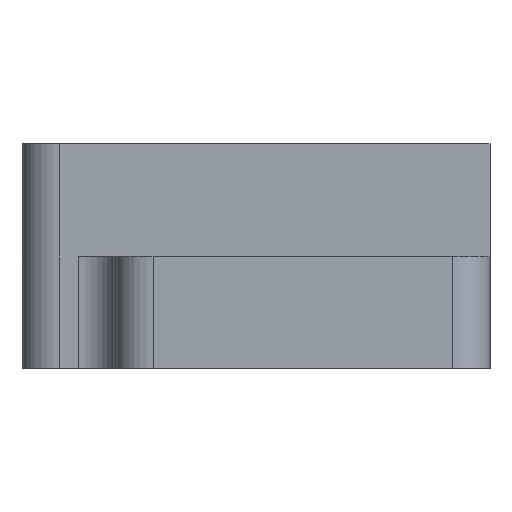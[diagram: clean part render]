
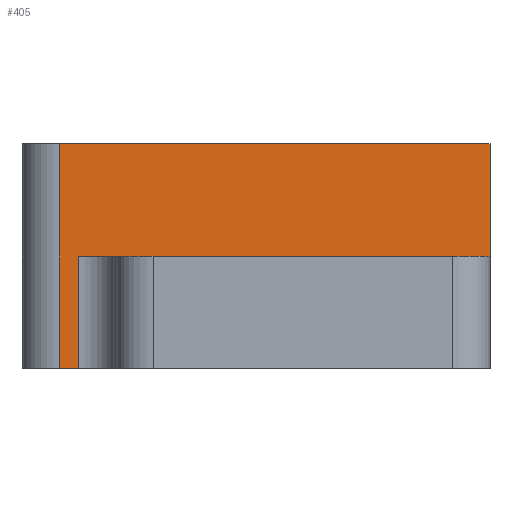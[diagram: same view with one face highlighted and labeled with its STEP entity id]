
A CAD part, front view. The second image highlights one B-rep face of the part: STEP entity #405.
In plain terms, the highlighted planar face has unit normal (0, -1, 0).
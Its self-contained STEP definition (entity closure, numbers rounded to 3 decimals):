
#141 = EDGE_CURVE ( 'NONE', #1511, #2678, #1443, .T. ) ;
#196 = ORIENTED_EDGE ( 'NONE', *, *, #7017, .T. ) ;
#268 = VERTEX_POINT ( 'NONE', #3875 ) ;
#278 = DIRECTION ( 'NONE',  ( 1., 0., 0. ) ) ;
#405 = ADVANCED_FACE ( 'NONE', ( #3541 ), #700, .T. ) ;
#467 = EDGE_CURVE ( 'NONE', #2787, #2678, #2527, .T. ) ;
#551 = CARTESIAN_POINT ( 'NONE',  ( -15., -9., 0. ) ) ;
#585 = AXIS2_PLACEMENT_3D ( 'NONE', #551, #5265, #2420 ) ;
#626 = CARTESIAN_POINT ( 'NONE',  ( 10., -9., 12. ) ) ;
#700 = PLANE ( 'NONE',  #585 ) ;
#817 = EDGE_LOOP ( 'NONE', ( #1383, #3937, #1764, #196, #6252, #2074 ) ) ;
#830 = VECTOR ( 'NONE', #877, 1000. ) ;
#877 = DIRECTION ( 'NONE',  ( 0., 0., 1. ) ) ;
#1327 = CARTESIAN_POINT ( 'NONE',  ( -12., -9., 6. ) ) ;
#1383 = ORIENTED_EDGE ( 'NONE', *, *, #1720, .T. ) ;
#1392 = DIRECTION ( 'NONE',  ( 0., 0., -1. ) ) ;
#1417 = CARTESIAN_POINT ( 'NONE',  ( 10., -9., 0. ) ) ;
#1443 = LINE ( 'NONE', #1937, #830 ) ;
#1511 = VERTEX_POINT ( 'NONE', #5639 ) ;
#1720 = EDGE_CURVE ( 'NONE', #268, #1511, #1965, .T. ) ;
#1764 = ORIENTED_EDGE ( 'NONE', *, *, #467, .F. ) ;
#1891 = CARTESIAN_POINT ( 'NONE',  ( -10., -9., 6. ) ) ;
#1937 = CARTESIAN_POINT ( 'NONE',  ( -12., -9., 0. ) ) ;
#1965 = LINE ( 'NONE', #5373, #3100 ) ;
#2074 = ORIENTED_EDGE ( 'NONE', *, *, #3026, .T. ) ;
#2420 = DIRECTION ( 'NONE',  ( 0., 0., -1. ) ) ;
#2490 = DIRECTION ( 'NONE',  ( -1., 0., 0. ) ) ;
#2527 = LINE ( 'NONE', #1891, #5126 ) ;
#2542 = DIRECTION ( 'NONE',  ( 0., 0., 1. ) ) ;
#2678 = VERTEX_POINT ( 'NONE', #1327 ) ;
#2787 = VERTEX_POINT ( 'NONE', #4497 ) ;
#3026 = EDGE_CURVE ( 'NONE', #4513, #268, #5356, .T. ) ;
#3045 = DIRECTION ( 'NONE',  ( 1., 0., 0. ) ) ;
#3100 = VECTOR ( 'NONE', #278, 1000. ) ;
#3541 = FACE_OUTER_BOUND ( 'NONE', #817, .T. ) ;
#3784 = VERTEX_POINT ( 'NONE', #626 ) ;
#3875 = CARTESIAN_POINT ( 'NONE',  ( -13., -9., 0. ) ) ;
#3890 = CARTESIAN_POINT ( 'NONE',  ( -13., -9., 12. ) ) ;
#3932 = VECTOR ( 'NONE', #3045, 1000. ) ;
#3937 = ORIENTED_EDGE ( 'NONE', *, *, #141, .T. ) ;
#4273 = EDGE_CURVE ( 'NONE', #4513, #3784, #6443, .T. ) ;
#4497 = CARTESIAN_POINT ( 'NONE',  ( 10., -9., 6. ) ) ;
#4513 = VERTEX_POINT ( 'NONE', #3890 ) ;
#4725 = CARTESIAN_POINT ( 'NONE',  ( -15., -9., 12. ) ) ;
#5126 = VECTOR ( 'NONE', #2490, 1000. ) ;
#5265 = DIRECTION ( 'NONE',  ( 0., -1., 0. ) ) ;
#5356 = LINE ( 'NONE', #7069, #5567 ) ;
#5373 = CARTESIAN_POINT ( 'NONE',  ( -15., -9., 0. ) ) ;
#5567 = VECTOR ( 'NONE', #1392, 1000. ) ;
#5639 = CARTESIAN_POINT ( 'NONE',  ( -12., -9., 0. ) ) ;
#5951 = LINE ( 'NONE', #1417, #6894 ) ;
#6252 = ORIENTED_EDGE ( 'NONE', *, *, #4273, .F. ) ;
#6443 = LINE ( 'NONE', #4725, #3932 ) ;
#6894 = VECTOR ( 'NONE', #2542, 1000. ) ;
#7017 = EDGE_CURVE ( 'NONE', #2787, #3784, #5951, .T. ) ;
#7069 = CARTESIAN_POINT ( 'NONE',  ( -13., -9., 0. ) ) ;
